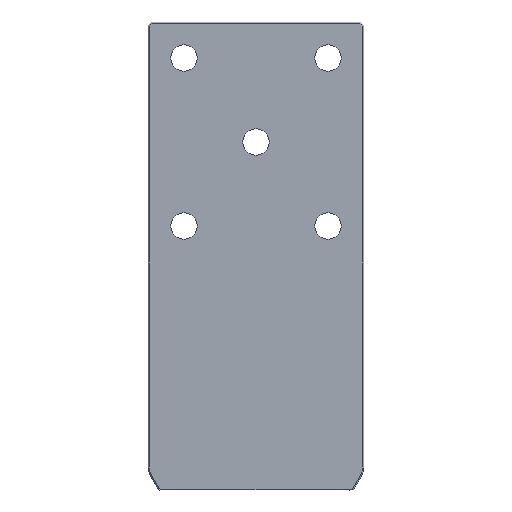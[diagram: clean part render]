
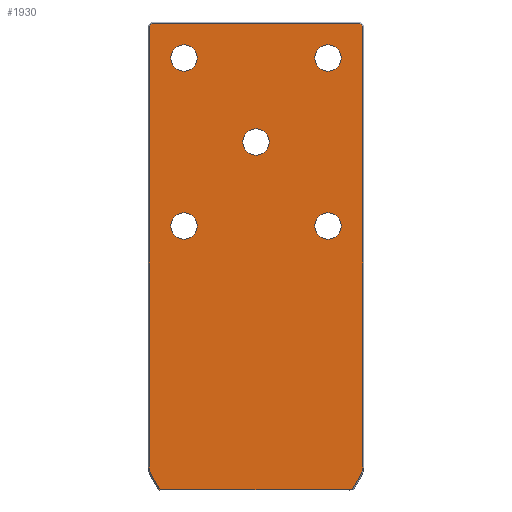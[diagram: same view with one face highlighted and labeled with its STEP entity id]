
A CAD part, front view. The second image highlights one B-rep face of the part: STEP entity #1930.
In plain terms, the highlighted planar face has unit normal (0, -1, 0).
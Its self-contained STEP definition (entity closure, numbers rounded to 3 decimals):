
#135=VERTEX_POINT(' ',#136);
#136=CARTESIAN_POINT('',(60.,-55.,-181.));
#137=VERTEX_POINT(' ',#138);
#138=CARTESIAN_POINT('',(60.,-55.,-159.));
#143=VERTEX_POINT(' ',#144);
#144=CARTESIAN_POINT('',(-60.,-55.,-41.));
#145=VERTEX_POINT(' ',#146);
#146=CARTESIAN_POINT('',(-60.,-55.,-19.));
#151=VERTEX_POINT(' ',#152);
#152=CARTESIAN_POINT('',(60.,-55.,-41.));
#153=VERTEX_POINT(' ',#154);
#154=CARTESIAN_POINT('',(60.,-55.,-19.));
#159=VERTEX_POINT(' ',#160);
#160=CARTESIAN_POINT('',(-60.,-55.,-181.));
#161=VERTEX_POINT(' ',#162);
#162=CARTESIAN_POINT('',(-60.,-55.,-159.));
#167=VERTEX_POINT(' ',#168);
#168=CARTESIAN_POINT('',(0.,-55.,-111.));
#169=VERTEX_POINT(' ',#170);
#170=CARTESIAN_POINT('',(0.,-55.,-89.));
#253=VERTEX_POINT(' ',#254);
#254=CARTESIAN_POINT('',(80.185,-55.,-390.));
#255=VERTEX_POINT(' ',#256);
#256=CARTESIAN_POINT('',(86.454,-55.,-379.141));
#257=VERTEX_POINT(' ',#258);
#258=CARTESIAN_POINT('',(89.,-55.,-369.641));
#259=VERTEX_POINT(' ',#260);
#260=CARTESIAN_POINT('',(89.,-55.,-200.));
#261=VERTEX_POINT(' ',#262);
#262=CARTESIAN_POINT('',(89.,-55.,-3.414));
#265=VERTEX_POINT(' ',#266);
#266=CARTESIAN_POINT('',(86.586,-55.,-1.));
#269=VERTEX_POINT(' ',#270);
#270=CARTESIAN_POINT('',(-86.586,-55.,-1.));
#273=VERTEX_POINT(' ',#274);
#274=CARTESIAN_POINT('',(-89.,-55.,-3.414));
#283=VERTEX_POINT(' ',#284);
#284=CARTESIAN_POINT('',(-80.185,-55.,-390.));
#285=VERTEX_POINT(' ',#286);
#286=CARTESIAN_POINT('',(-89.,-55.,-200.));
#287=VERTEX_POINT(' ',#288);
#288=CARTESIAN_POINT('',(-89.,-55.,-369.641));
#289=VERTEX_POINT(' ',#290);
#290=CARTESIAN_POINT('',(-86.454,-55.,-379.141));
#291=CIRCLE('',#292,11.);
#292=AXIS2_PLACEMENT_3D('',#293,#294,#295);
#293=CARTESIAN_POINT('',(60.,-55.,-170.));
#294=DIRECTION('',(0.,-1.,0.));
#295=DIRECTION('',(-1.,0.,0.));
#296=EDGE_CURVE(' ',#135,#137,#291,.T.);
#313=CIRCLE('',#314,11.);
#314=AXIS2_PLACEMENT_3D('',#315,#316,#317);
#315=CARTESIAN_POINT('',(60.,-55.,-170.));
#316=DIRECTION('',(0.,-1.,0.));
#317=DIRECTION('',(1.,0.,0.));
#318=EDGE_CURVE(' ',#137,#135,#313,.T.);
#325=CIRCLE('',#326,11.);
#326=AXIS2_PLACEMENT_3D('',#327,#328,#329);
#327=CARTESIAN_POINT('',(-60.,-55.,-30.));
#328=DIRECTION('',(0.,-1.,0.));
#329=DIRECTION('',(-1.,0.,0.));
#330=EDGE_CURVE(' ',#143,#145,#325,.T.);
#347=CIRCLE('',#348,11.);
#348=AXIS2_PLACEMENT_3D('',#349,#350,#351);
#349=CARTESIAN_POINT('',(-60.,-55.,-30.));
#350=DIRECTION('',(0.,-1.,0.));
#351=DIRECTION('',(1.,0.,0.));
#352=EDGE_CURVE(' ',#145,#143,#347,.T.);
#359=CIRCLE('',#360,11.);
#360=AXIS2_PLACEMENT_3D('',#361,#362,#363);
#361=CARTESIAN_POINT('',(60.,-55.,-30.));
#362=DIRECTION('',(0.,1.,0.));
#363=DIRECTION('',(-1.,0.,0.));
#364=EDGE_CURVE(' ',#151,#153,#359,.F.);
#381=CIRCLE('',#382,11.);
#382=AXIS2_PLACEMENT_3D('',#383,#384,#385);
#383=CARTESIAN_POINT('',(60.,-55.,-30.));
#384=DIRECTION('',(0.,1.,0.));
#385=DIRECTION('',(1.,0.,0.));
#386=EDGE_CURVE(' ',#153,#151,#381,.F.);
#393=CIRCLE('',#394,11.);
#394=AXIS2_PLACEMENT_3D('',#395,#396,#397);
#395=CARTESIAN_POINT('',(-60.,-55.,-170.));
#396=DIRECTION('',(0.,1.,0.));
#397=DIRECTION('',(-1.,0.,0.));
#398=EDGE_CURVE(' ',#159,#161,#393,.F.);
#415=CIRCLE('',#416,11.);
#416=AXIS2_PLACEMENT_3D('',#417,#418,#419);
#417=CARTESIAN_POINT('',(-60.,-55.,-170.));
#418=DIRECTION('',(0.,1.,0.));
#419=DIRECTION('',(1.,0.,0.));
#420=EDGE_CURVE(' ',#161,#159,#415,.F.);
#427=CIRCLE('',#428,11.);
#428=AXIS2_PLACEMENT_3D('',#429,#430,#431);
#429=CARTESIAN_POINT('',(0.,-55.,-100.));
#430=DIRECTION('',(0.,1.,0.));
#431=DIRECTION('',(-1.,0.,0.));
#432=EDGE_CURVE(' ',#167,#169,#427,.F.);
#449=CIRCLE('',#450,11.);
#450=AXIS2_PLACEMENT_3D('',#451,#452,#453);
#451=CARTESIAN_POINT('',(0.,-55.,-100.));
#452=DIRECTION('',(0.,1.,0.));
#453=DIRECTION('',(1.,0.,0.));
#454=EDGE_CURVE(' ',#169,#167,#449,.F.);
#846=LINE('',#847,#848);
#847=CARTESIAN_POINT('',(86.454,-55.,-379.141));
#848=VECTOR('',#849,1.);
#849=DIRECTION('',(-0.5,0.,-0.866));
#850=EDGE_CURVE(' ',#255,#253,#846,.T.);
#856=CIRCLE('',#857,19.);
#857=AXIS2_PLACEMENT_3D('',#858,#859,#860);
#858=CARTESIAN_POINT('',(70.,-55.,-369.641));
#859=DIRECTION('',(0.,1.,0.));
#860=DIRECTION('',(-0.966,0.,0.259));
#861=EDGE_CURVE(' ',#257,#255,#856,.T.);
#867=LINE('',#868,#869);
#868=CARTESIAN_POINT('',(89.,-55.,-200.));
#869=VECTOR('',#870,1.);
#870=DIRECTION('',(0.,0.,-1.));
#871=EDGE_CURVE(' ',#259,#257,#867,.T.);
#877=LINE('',#878,#879);
#878=CARTESIAN_POINT('',(89.,-55.,2.657));
#879=VECTOR('',#880,1.);
#880=DIRECTION('',(0.,0.,-1.));
#881=EDGE_CURVE(' ',#261,#259,#877,.T.);
#897=LINE('',#898,#899);
#898=CARTESIAN_POINT('',(82.293,-55.,3.293));
#899=VECTOR('',#900,1.);
#900=DIRECTION('',(0.707,0.,-0.707));
#901=EDGE_CURVE(' ',#265,#261,#897,.T.);
#917=LINE('',#918,#919);
#918=CARTESIAN_POINT('',(-92.657,-55.,-1.));
#919=VECTOR('',#920,1.);
#920=DIRECTION('',(1.,0.,0.));
#921=EDGE_CURVE(' ',#269,#265,#917,.T.);
#937=LINE('',#938,#939);
#938=CARTESIAN_POINT('',(-93.293,-55.,-7.707));
#939=VECTOR('',#940,1.);
#940=DIRECTION('',(0.707,0.,0.707));
#941=EDGE_CURVE(' ',#273,#269,#937,.T.);
#988=LINE('',#989,#990);
#989=CARTESIAN_POINT('',(-90.12,-55.,-390.));
#990=VECTOR('',#991,1.);
#991=DIRECTION('',(1.,0.,0.));
#992=EDGE_CURVE(' ',#253,#283,#988,.F.);
#993=LINE('',#994,#995);
#994=CARTESIAN_POINT('',(-89.,-55.,-200.));
#995=VECTOR('',#996,1.);
#996=DIRECTION('',(0.,0.,1.));
#997=EDGE_CURVE(' ',#285,#273,#993,.T.);
#998=LINE('',#999,#1000);
#999=CARTESIAN_POINT('',(-89.,-55.,-369.641));
#1000=VECTOR('',#1001,1.);
#1001=DIRECTION('',(0.,0.,1.));
#1002=EDGE_CURVE(' ',#287,#285,#998,.T.);
#1003=CIRCLE('',#1004,19.);
#1004=AXIS2_PLACEMENT_3D('',#1005,#1006,#1007);
#1005=CARTESIAN_POINT('',(-70.,-55.,-369.641));
#1006=DIRECTION('',(0.,1.,0.));
#1007=DIRECTION('',(0.966,0.,0.259));
#1008=EDGE_CURVE(' ',#289,#287,#1003,.T.);
#1009=LINE('',#1010,#1011);
#1010=CARTESIAN_POINT('',(-77.645,-55.,-394.399));
#1011=VECTOR('',#1012,1.);
#1012=DIRECTION('',(-0.5,0.,0.866));
#1013=EDGE_CURVE(' ',#283,#289,#1009,.T.);
#1891=ORIENTED_EDGE('',*,*,#997,.F.);
#1892=ORIENTED_EDGE('',*,*,#1002,.F.);
#1893=ORIENTED_EDGE('',*,*,#1008,.F.);
#1894=ORIENTED_EDGE('',*,*,#1013,.F.);
#1895=ORIENTED_EDGE('',*,*,#992,.F.);
#1896=ORIENTED_EDGE('',*,*,#850,.F.);
#1897=ORIENTED_EDGE('',*,*,#861,.F.);
#1898=ORIENTED_EDGE('',*,*,#871,.F.);
#1899=ORIENTED_EDGE('',*,*,#881,.F.);
#1900=ORIENTED_EDGE('',*,*,#901,.F.);
#1901=ORIENTED_EDGE('',*,*,#921,.F.);
#1902=ORIENTED_EDGE('',*,*,#941,.F.);
#1903=EDGE_LOOP('',(#1891,#1892,#1893,#1894,#1895,#1896,#1897,#1898,#1899,#1900,#1901,#1902));
#1904=FACE_OUTER_BOUND('',#1903,.T.);
#1905=ORIENTED_EDGE('',*,*,#454,.F.);
#1906=ORIENTED_EDGE('',*,*,#432,.F.);
#1907=EDGE_LOOP('',(#1905,#1906));
#1908=FACE_BOUND('',#1907,.T.);
#1909=ORIENTED_EDGE('',*,*,#420,.F.);
#1910=ORIENTED_EDGE('',*,*,#398,.F.);
#1911=EDGE_LOOP('',(#1909,#1910));
#1912=FACE_BOUND('',#1911,.T.);
#1913=ORIENTED_EDGE('',*,*,#386,.F.);
#1914=ORIENTED_EDGE('',*,*,#364,.F.);
#1915=EDGE_LOOP('',(#1913,#1914));
#1916=FACE_BOUND('',#1915,.T.);
#1917=ORIENTED_EDGE('',*,*,#352,.F.);
#1918=ORIENTED_EDGE('',*,*,#330,.F.);
#1919=EDGE_LOOP('',(#1917,#1918));
#1920=FACE_BOUND('',#1919,.T.);
#1921=ORIENTED_EDGE('',*,*,#318,.F.);
#1922=ORIENTED_EDGE('',*,*,#296,.F.);
#1923=EDGE_LOOP('',(#1921,#1922));
#1924=FACE_BOUND('',#1923,.T.);
#1925=PLANE('',#1926);
#1926=AXIS2_PLACEMENT_3D('',#1927,#1928,#1929);
#1927=CARTESIAN_POINT('',(0.,-55.,0.));
#1928=DIRECTION('',(0.,-1.,0.));
#1929=DIRECTION('',(0.,0.,-1.));
#1930=ADVANCED_FACE('',(#1904,#1908,#1912,#1916,#1920,#1924),#1925,.T.);
